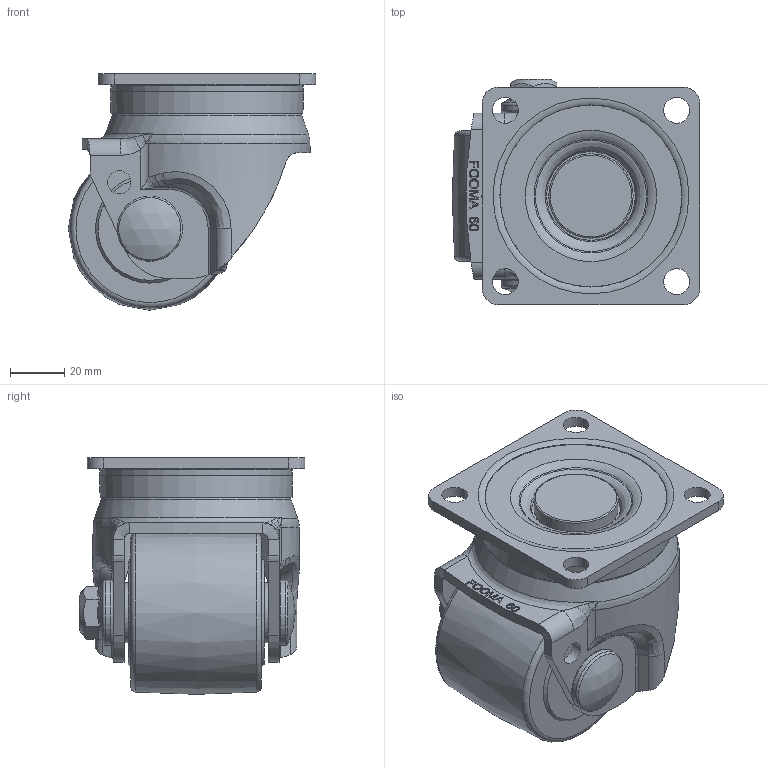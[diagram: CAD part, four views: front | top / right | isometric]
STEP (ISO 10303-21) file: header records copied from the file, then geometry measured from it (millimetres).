
FILE_DESCRIPTION(/* description */ (''),/* implementation_level */ '2;1');
FILE_NAME(/* name */ 'JS-60-ASF-PJP v2.step',/* time_stamp */ '2023-12-27T15:27:52+09:00',/* author */ (''),/* organization */ (''),/* preprocessor_version */ 'ST-DEVELOPER v20',/* originating_system */ 'Autodesk Translation Framework v12.14.0.127',/* authorisation */ '');
FILE_SCHEMA (('AUTOMOTIVE_DESIGN { 1 0 10303 214 3 1 1 }'));
Length unit declared in the file: millimetre
Products named in the file (1): JS-60-ASF-PJP
Bounding box: 91 x 83 x 87 mm (x, y, z)
Volume: 262128.8 mm3; surface area: 53026.5 mm2
Topology: 1 solids, 1 shells, 699 faces, 1928 edges, 1254 vertices
Faces by surface type: plane 557, bspline 51, cylinder 46, torus 27, cone 17, sphere 1
Full cylindrical faces by diameter (mm): 8.5 x2, 9.5 x4, 22 x2, 24 x2, 28 x1, 31 x1, 61 x1
Entity records: 24255 total; most frequent: CARTESIAN_POINT 6616, ORIENTED_EDGE 3848, DIRECTION 3319, EDGE_CURVE 1924, LINE 1597, VECTOR 1597, VERTEX_POINT 1254, AXIS2_PLACEMENT_3D 861
